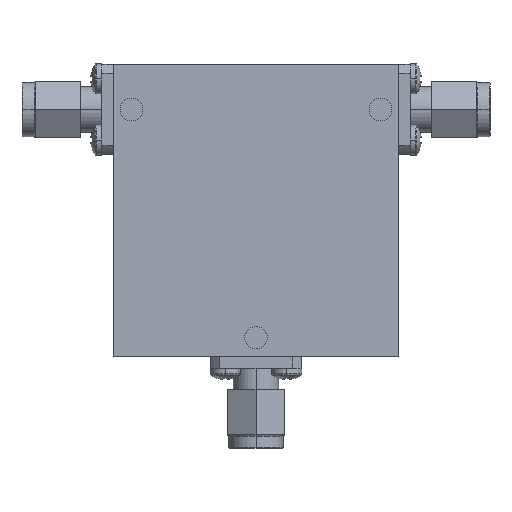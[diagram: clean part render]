
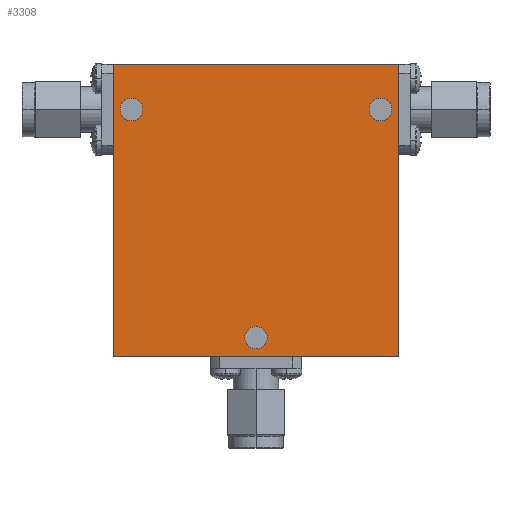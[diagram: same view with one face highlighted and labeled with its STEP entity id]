
A CAD part, top view. The second image highlights one B-rep face of the part: STEP entity #3308.
In plain terms, the highlighted planar face has unit normal (0, 0, 1) as drawn and (0, 0, -1) by its records, which use the part's own axes.
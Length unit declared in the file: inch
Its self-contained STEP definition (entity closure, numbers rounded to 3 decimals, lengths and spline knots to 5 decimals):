
#6 = DIRECTION ( 'NONE',  ( 0., 0., 1. ) ) ;
#39 = EDGE_LOOP ( 'NONE', ( #2625, #1740 ) ) ;
#75 = FACE_BOUND ( 'NONE', #1703, .T. ) ;
#172 = CARTESIAN_POINT ( 'NONE',  ( -0.79, 0.81, -0.35 ) ) ;
#238 = EDGE_CURVE ( 'NONE', #298, #1736, #585, .T. ) ;
#272 = DIRECTION ( 'NONE',  ( 1., 0., 0. ) ) ;
#291 = VERTEX_POINT ( 'NONE', #1960 ) ;
#298 = VERTEX_POINT ( 'NONE', #2727 ) ;
#318 = EDGE_CURVE ( 'NONE', #721, #3226, #2542, .T. ) ;
#341 = ORIENTED_EDGE ( 'NONE', *, *, #3092, .T. ) ;
#377 = VERTEX_POINT ( 'NONE', #690 ) ;
#394 = DIRECTION ( 'NONE',  ( 0., 0., 1. ) ) ;
#462 = AXIS2_PLACEMENT_3D ( 'NONE', #780, #2820, #2068 ) ;
#511 = EDGE_LOOP ( 'NONE', ( #2031, #3299 ) ) ;
#558 = DIRECTION ( 'NONE',  ( 0., -1., 0. ) ) ;
#572 = DIRECTION ( 'NONE',  ( 0., 0., 1. ) ) ;
#585 = CIRCLE ( 'NONE', #2207, 0.0625 ) ;
#678 = EDGE_CURVE ( 'NONE', #1736, #298, #2319, .T. ) ;
#690 = CARTESIAN_POINT ( 'NONE',  ( 0.0625, -0.705, -0.35 ) ) ;
#704 = CARTESIAN_POINT ( 'NONE',  ( -0.6275, 0.56, -0.35 ) ) ;
#721 = VERTEX_POINT ( 'NONE', #1361 ) ;
#739 = VERTEX_POINT ( 'NONE', #1560 ) ;
#759 = AXIS2_PLACEMENT_3D ( 'NONE', #2320, #394, #1048 ) ;
#780 = CARTESIAN_POINT ( 'NONE',  ( 0.69, 0.56, -0.35 ) ) ;
#865 = CARTESIAN_POINT ( 'NONE',  ( -0.69, 0.56, -0.35 ) ) ;
#878 = PLANE ( 'NONE',  #1528 ) ;
#887 = CARTESIAN_POINT ( 'NONE',  ( -0.79, 0.81, -0.35 ) ) ;
#917 = DIRECTION ( 'NONE',  ( -1., 0., 0. ) ) ;
#949 = CARTESIAN_POINT ( 'NONE',  ( 0.6275, 0.56, -0.35 ) ) ;
#1048 = DIRECTION ( 'NONE',  ( 1., 0., 0. ) ) ;
#1055 = LINE ( 'NONE', #1818, #1601 ) ;
#1068 = ORIENTED_EDGE ( 'NONE', *, *, #3113, .F. ) ;
#1078 = DIRECTION ( 'NONE',  ( 0., 0., 1. ) ) ;
#1098 = CIRCLE ( 'NONE', #1260, 0.0625 ) ;
#1124 = AXIS2_PLACEMENT_3D ( 'NONE', #865, #1078, #2123 ) ;
#1130 = DIRECTION ( 'NONE',  ( 0., 0., 1. ) ) ;
#1208 = FACE_BOUND ( 'NONE', #511, .T. ) ;
#1260 = AXIS2_PLACEMENT_3D ( 'NONE', #3067, #6, #272 ) ;
#1274 = EDGE_CURVE ( 'NONE', #3226, #2454, #1791, .T. ) ;
#1361 = CARTESIAN_POINT ( 'NONE',  ( 0.79, -0.81, -0.35 ) ) ;
#1473 = VERTEX_POINT ( 'NONE', #3024 ) ;
#1482 = EDGE_CURVE ( 'NONE', #1473, #721, #3227, .T. ) ;
#1503 = EDGE_CURVE ( 'NONE', #739, #1759, #2422, .T. ) ;
#1528 = AXIS2_PLACEMENT_3D ( 'NONE', #2142, #1130, #1626 ) ;
#1533 = EDGE_LOOP ( 'NONE', ( #2938, #2701, #1068, #2941 ) ) ;
#1541 = DIRECTION ( 'NONE',  ( 1., 0., 0. ) ) ;
#1560 = CARTESIAN_POINT ( 'NONE',  ( 0.7525, 0.56, -0.35 ) ) ;
#1601 = VECTOR ( 'NONE', #558, 39.37008 ) ;
#1626 = DIRECTION ( 'NONE',  ( 1., 0., 0. ) ) ;
#1703 = EDGE_LOOP ( 'NONE', ( #341, #2450 ) ) ;
#1707 = VECTOR ( 'NONE', #917, 39.37008 ) ;
#1736 = VERTEX_POINT ( 'NONE', #704 ) ;
#1740 = ORIENTED_EDGE ( 'NONE', *, *, #2744, .T. ) ;
#1759 = VERTEX_POINT ( 'NONE', #949 ) ;
#1791 = LINE ( 'NONE', #172, #1707 ) ;
#1818 = CARTESIAN_POINT ( 'NONE',  ( -0.79, 0.81, -0.35 ) ) ;
#1819 = VECTOR ( 'NONE', #1541, 39.37008 ) ;
#1841 = CARTESIAN_POINT ( 'NONE',  ( 0.79, 0.81, -0.35 ) ) ;
#1933 = DIRECTION ( 'NONE',  ( 0., 0., 1. ) ) ;
#1960 = CARTESIAN_POINT ( 'NONE',  ( -0.0625, -0.705, -0.35 ) ) ;
#2031 = ORIENTED_EDGE ( 'NONE', *, *, #678, .T. ) ;
#2041 = EDGE_CURVE ( 'NONE', #291, #377, #2901, .T. ) ;
#2068 = DIRECTION ( 'NONE',  ( 1., 0., 0. ) ) ;
#2098 = AXIS2_PLACEMENT_3D ( 'NONE', #2307, #572, #2352 ) ;
#2123 = DIRECTION ( 'NONE',  ( 1., 0., 0. ) ) ;
#2129 = FACE_OUTER_BOUND ( 'NONE', #1533, .T. ) ;
#2142 = CARTESIAN_POINT ( 'NONE',  ( 0., 0., -0.35 ) ) ;
#2158 = CARTESIAN_POINT ( 'NONE',  ( -0.69, 0.56, -0.35 ) ) ;
#2207 = AXIS2_PLACEMENT_3D ( 'NONE', #2158, #1933, #2661 ) ;
#2209 = CARTESIAN_POINT ( 'NONE',  ( 0.79, 0.81, -0.35 ) ) ;
#2307 = CARTESIAN_POINT ( 'NONE',  ( 0.69, 0.56, -0.35 ) ) ;
#2319 = CIRCLE ( 'NONE', #1124, 0.0625 ) ;
#2320 = CARTESIAN_POINT ( 'NONE',  ( 0., -0.705, -0.35 ) ) ;
#2352 = DIRECTION ( 'NONE',  ( 1., 0., 0. ) ) ;
#2422 = CIRCLE ( 'NONE', #462, 0.0625 ) ;
#2450 = ORIENTED_EDGE ( 'NONE', *, *, #2041, .T. ) ;
#2454 = VERTEX_POINT ( 'NONE', #887 ) ;
#2542 = LINE ( 'NONE', #2209, #3053 ) ;
#2625 = ORIENTED_EDGE ( 'NONE', *, *, #1503, .T. ) ;
#2661 = DIRECTION ( 'NONE',  ( 1., 0., 0. ) ) ;
#2701 = ORIENTED_EDGE ( 'NONE', *, *, #1482, .F. ) ;
#2727 = CARTESIAN_POINT ( 'NONE',  ( -0.7525, 0.56, -0.35 ) ) ;
#2744 = EDGE_CURVE ( 'NONE', #1759, #739, #2771, .T. ) ;
#2767 = FACE_BOUND ( 'NONE', #39, .T. ) ;
#2771 = CIRCLE ( 'NONE', #2098, 0.0625 ) ;
#2820 = DIRECTION ( 'NONE',  ( 0., 0., 1. ) ) ;
#2901 = CIRCLE ( 'NONE', #759, 0.0625 ) ;
#2938 = ORIENTED_EDGE ( 'NONE', *, *, #318, .F. ) ;
#2941 = ORIENTED_EDGE ( 'NONE', *, *, #1274, .F. ) ;
#2996 = DIRECTION ( 'NONE',  ( 0., 1., 0. ) ) ;
#3024 = CARTESIAN_POINT ( 'NONE',  ( -0.79, -0.81, -0.35 ) ) ;
#3053 = VECTOR ( 'NONE', #2996, 39.37008 ) ;
#3059 = CARTESIAN_POINT ( 'NONE',  ( -0.79, -0.81, -0.35 ) ) ;
#3067 = CARTESIAN_POINT ( 'NONE',  ( 0., -0.705, -0.35 ) ) ;
#3092 = EDGE_CURVE ( 'NONE', #377, #291, #1098, .T. ) ;
#3113 = EDGE_CURVE ( 'NONE', #2454, #1473, #1055, .T. ) ;
#3226 = VERTEX_POINT ( 'NONE', #1841 ) ;
#3227 = LINE ( 'NONE', #3059, #1819 ) ;
#3299 = ORIENTED_EDGE ( 'NONE', *, *, #238, .T. ) ;
#3308 = ADVANCED_FACE ( 'NONE', ( #2767, #75, #1208, #2129 ), #878, .F. ) ;
